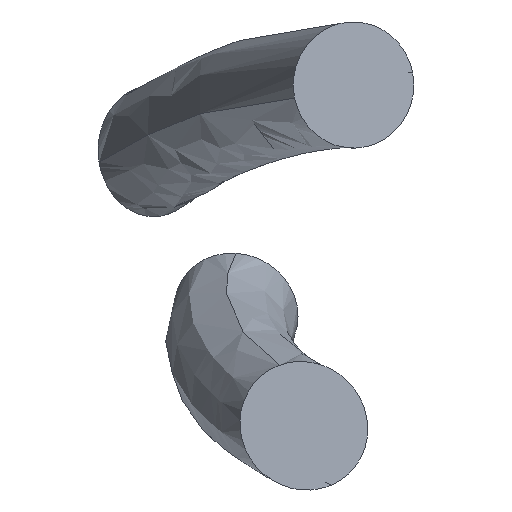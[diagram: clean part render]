
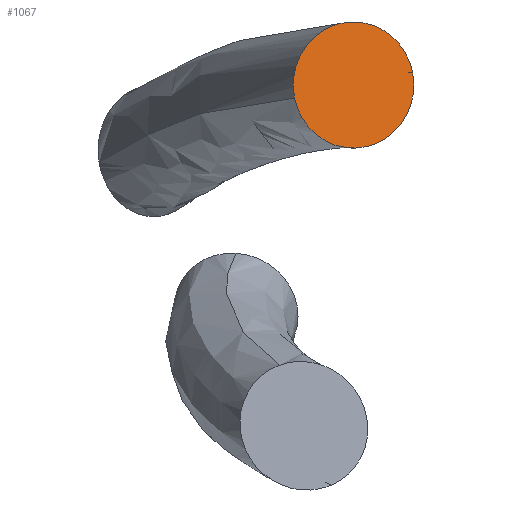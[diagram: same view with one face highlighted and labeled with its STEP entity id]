
A CAD part, top view. The second image highlights one B-rep face of the part: STEP entity #1067.
In plain terms, the highlighted planar face has unit normal (0.292, 0, 0.956).
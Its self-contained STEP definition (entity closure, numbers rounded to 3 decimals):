
#8 = AXIS2_PLACEMENT_3D ( 'NONE', #1180, #841, #598 ) ;
#9 = AXIS2_PLACEMENT_3D ( 'NONE', #968, #1409, #333 ) ;
#53 = VERTEX_POINT ( 'NONE', #1152 ) ;
#200 = CIRCLE ( 'NONE', #9, 22.5 ) ;
#212 = CARTESIAN_POINT ( 'NONE',  ( 422.09, -245.091, 960.014 ) ) ;
#333 = DIRECTION ( 'NONE',  ( -0.935, -0.209, 0.286 ) ) ;
#336 = EDGE_LOOP ( 'NONE', ( #669, #1020 ) ) ;
#398 = VERTEX_POINT ( 'NONE', #1323 ) ;
#464 = DIRECTION ( 'NONE',  ( -0.935, -0.209, 0.286 ) ) ;
#580 = EDGE_CURVE ( 'NONE', #398, #53, #1435, .T. ) ;
#598 = DIRECTION ( 'NONE',  ( -0.935, -0.209, 0.286 ) ) ;
#669 = ORIENTED_EDGE ( 'NONE', *, *, #580, .T. ) ;
#822 = PLANE ( 'NONE',  #1008 ) ;
#841 = DIRECTION ( 'NONE',  ( 0.292, 0., 0.956 ) ) ;
#924 = FACE_OUTER_BOUND ( 'NONE', #336, .T. ) ;
#968 = CARTESIAN_POINT ( 'NONE',  ( 422.09, -245.091, 960.014 ) ) ;
#1008 = AXIS2_PLACEMENT_3D ( 'NONE', #212, #1061, #464 ) ;
#1020 = ORIENTED_EDGE ( 'NONE', *, *, #1250, .T. ) ;
#1061 = DIRECTION ( 'NONE',  ( 0.292, 0., 0.956 ) ) ;
#1067 = ADVANCED_FACE ( 'NONE', ( #924 ), #822, .T. ) ;
#1152 = CARTESIAN_POINT ( 'NONE',  ( 443.133, -240.394, 953.58 ) ) ;
#1180 = CARTESIAN_POINT ( 'NONE',  ( 422.09, -245.091, 960.014 ) ) ;
#1250 = EDGE_CURVE ( 'NONE', #53, #398, #200, .T. ) ;
#1323 = CARTESIAN_POINT ( 'NONE',  ( 401.048, -249.789, 966.447 ) ) ;
#1409 = DIRECTION ( 'NONE',  ( 0.292, 0., 0.956 ) ) ;
#1435 = CIRCLE ( 'NONE', #8, 22.5 ) ;
